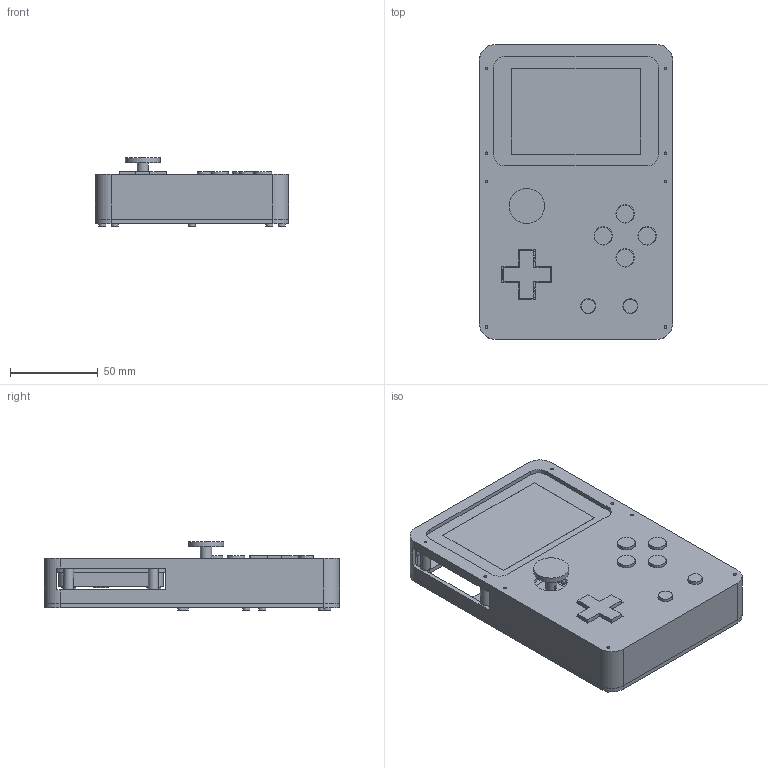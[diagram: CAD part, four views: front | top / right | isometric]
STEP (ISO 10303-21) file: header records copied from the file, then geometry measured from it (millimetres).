
FILE_DESCRIPTION(('FreeCAD Model'),'2;1');
FILE_NAME('Open CASCADE Shape Model','2026-10-20T15:18:14',('FreeCAD'),( 'FreeCAD'),'Open CASCADE STEP processor 7.8','FreeCAD','Unknown');
FILE_SCHEMA(('AUTOMOTIVE_DESIGN { 1 0 10303 214 1 1 1 1 }'));
Length unit declared in the file: millimetre
Products named in the file (1): Open CASCADE STEP translator 7.8 1
Bounding box: 110 x 168 x 39.1 mm (x, y, z)
Volume: 195088.2 mm3; surface area: 157904.6 mm2
Topology: 162 solids, 162 shells, 1259 faces, 2622 edges, 1749 vertices
Faces by surface type: plane 1009, cylinder 249, sphere 1
Full cylindrical faces by diameter (mm): 1.6 x15, 1.7 x5, 1.9 x25, 2.2 x12, 2.3 x13, 2.4 x5, 2.8 x6, 3 x1, 3.2 x3, 3.5 x10, 4 x25, 4.4 x5, 4.6 x2, 5.2 x9, 5.4 x4, 5.6 x4, 6 x2, 6.4 x1, 8 x2, 8.5 x2, 8.9 x2, 9 x1, 9.1 x4, 10 x4, 10.2 x2, 10.5 x4, 10.7 x2, 11.1 x4, 12.4 x4, 12.6 x2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
Entity records: 33300 total; most frequent: DIRECTION 5666, CARTESIAN_POINT 5636, ORIENTED_EDGE 5242, EDGE_CURVE 2621, LINE 2084, VECTOR 2084, AXIS2_PLACEMENT_3D 1791, VERTEX_POINT 1749
